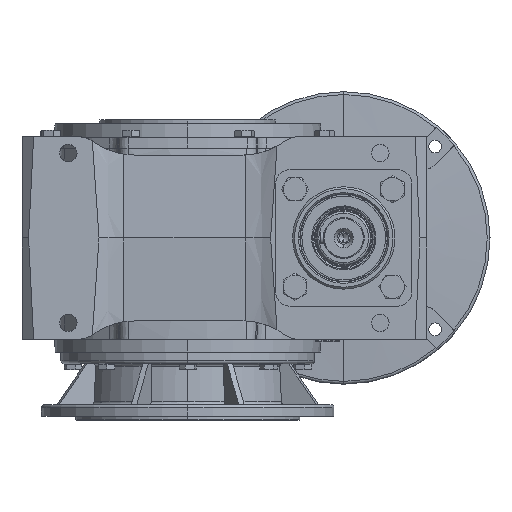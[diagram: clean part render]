
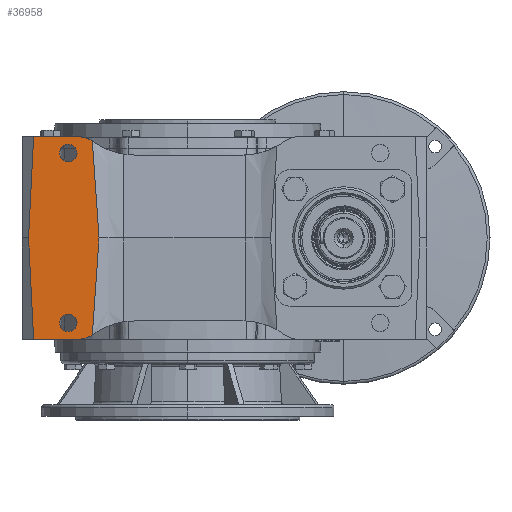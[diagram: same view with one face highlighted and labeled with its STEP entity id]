
A CAD part, left-side view. The second image highlights one B-rep face of the part: STEP entity #36958.
In plain terms, the highlighted planar face has unit normal (-1, 0, 0).
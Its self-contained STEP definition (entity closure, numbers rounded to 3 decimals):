
#3470 = CARTESIAN_POINT ( 'NONE',  ( -170., 113.851, -74. ) ) ;
#4552 = DIRECTION ( 'NONE',  ( 0., 0., 1. ) ) ;
#7129 = CARTESIAN_POINT ( 'NONE',  ( -170., 92.258, 16.555 ) ) ;
#7881 = CARTESIAN_POINT ( 'NONE',  ( -170., 95.711, 66.242 ) ) ;
#7960 = FACE_BOUND ( 'NONE', #58443, .T. ) ;
#8030 = VERTEX_POINT ( 'NONE', #23233 ) ;
#10443 = EDGE_CURVE ( 'NONE', #32246, #8030, #54587, .T. ) ;
#10709 = VECTOR ( 'NONE', #45465, 1000. ) ;
#10775 = DIRECTION ( 'NONE',  ( -1., 0., 0. ) ) ;
#10884 = ORIENTED_EDGE ( 'NONE', *, *, #18679, .T. ) ;
#12291 = ORIENTED_EDGE ( 'NONE', *, *, #26528, .F. ) ;
#12383 = DIRECTION ( 'NONE',  ( 0., 1., 0. ) ) ;
#16838 = ORIENTED_EDGE ( 'NONE', *, *, #47086, .F. ) ;
#16850 = CARTESIAN_POINT ( 'NONE',  ( -170., 97.852, 99.377 ) ) ;
#17717 = CARTESIAN_POINT ( 'NONE',  ( -170., 122.5, 96. ) ) ;
#18679 = EDGE_CURVE ( 'NONE', #29253, #93138, #91396, .T. ) ;
#19128 = CIRCLE ( 'NONE', #57499, 9. ) ;
#21636 = VERTEX_POINT ( 'NONE', #95622 ) ;
#22206 = DIRECTION ( 'NONE',  ( 0., -0.049, 0.999 ) ) ;
#23233 = CARTESIAN_POINT ( 'NONE',  ( -170., 122.5, 78. ) ) ;
#24098 = B_SPLINE_CURVE_WITH_KNOTS ( 'NONE', 3,
 ( #68970, #7129, #60841, #7881, #69749, #16850 ),
 .UNSPECIFIED., .F., .F.,
 ( 4, 2, 4 ),
 ( 0.098, 0.147, 0.197 ),
 .UNSPECIFIED. ) ;
#26034 = CARTESIAN_POINT ( 'NONE',  ( -170., 93.44, -33.115 ) ) ;
#26528 = EDGE_CURVE ( 'NONE', #8030, #32246, #114505, .T. ) ;
#27073 = CARTESIAN_POINT ( 'NONE',  ( -170., 158.098, 104. ) ) ;
#27307 = DIRECTION ( 'NONE',  ( 0., 1., 0. ) ) ;
#29253 = VERTEX_POINT ( 'NONE', #69434 ) ;
#32175 = CARTESIAN_POINT ( 'NONE',  ( -170., 113.851, 74. ) ) ;
#32246 = VERTEX_POINT ( 'NONE', #17717 ) ;
#34309 = FACE_BOUND ( 'NONE', #47707, .T. ) ;
#34918 = CARTESIAN_POINT ( 'NONE',  ( -170., 96.799, -82.808 ) ) ;
#36363 = VECTOR ( 'NONE', #22206, 1000. ) ;
#36958 = ADVANCED_FACE ( 'NONE', ( #7960, #34309, #49403 ), #44653, .F. ) ;
#38540 = VERTEX_POINT ( 'NONE', #72688 ) ;
#38980 = ORIENTED_EDGE ( 'NONE', *, *, #39487, .T. ) ;
#39487 = EDGE_CURVE ( 'NONE', #47561, #21636, #24098, .T. ) ;
#40995 = DIRECTION ( 'NONE',  ( 0., 1., 0. ) ) ;
#41732 = CARTESIAN_POINT ( 'NONE',  ( -170., 122.5, -78. ) ) ;
#42114 = ORIENTED_EDGE ( 'NONE', *, *, #45759, .F. ) ;
#43281 = EDGE_LOOP ( 'NONE', ( #38980, #107599, #16838, #51295, #100683, #52091, #10884, #42114 ) ) ;
#43364 = CARTESIAN_POINT ( 'NONE',  ( -170., 92.258, -16.555 ) ) ;
#44173 = DIRECTION ( 'NONE',  ( -1., 0., 0. ) ) ;
#44653 = PLANE ( 'NONE',  #100724 ) ;
#45465 = DIRECTION ( 'NONE',  ( 0., -1., 0. ) ) ;
#45696 = CARTESIAN_POINT ( 'NONE',  ( -170., 122.5, 87. ) ) ;
#45759 = EDGE_CURVE ( 'NONE', #47561, #93138, #91962, .T. ) ;
#47086 = EDGE_CURVE ( 'NONE', #86064, #38540, #81191, .T. ) ;
#47561 = VERTEX_POINT ( 'NONE', #106786 ) ;
#47707 = EDGE_LOOP ( 'NONE', ( #89801, #12291 ) ) ;
#49403 = FACE_OUTER_BOUND ( 'NONE', #43281, .T. ) ;
#51295 = ORIENTED_EDGE ( 'NONE', *, *, #99114, .F. ) ;
#52091 = ORIENTED_EDGE ( 'NONE', *, *, #83302, .F. ) ;
#52376 = ORIENTED_EDGE ( 'NONE', *, *, #80968, .F. ) ;
#54142 = CARTESIAN_POINT ( 'NONE',  ( -170., 97.852, -99.377 ) ) ;
#54554 = DIRECTION ( 'NONE',  ( 0., 0., 1. ) ) ;
#54587 = CIRCLE ( 'NONE', #103274, 9. ) ;
#57469 = DIRECTION ( 'NONE',  ( -1., 0., 0. ) ) ;
#57499 = AXIS2_PLACEMENT_3D ( 'NONE', #110463, #57469, #4552 ) ;
#58443 = EDGE_LOOP ( 'NONE', ( #88912, #52376 ) ) ;
#59546 = VECTOR ( 'NONE', #99122, 1000. ) ;
#59772 = VECTOR ( 'NONE', #80693, 1000. ) ;
#59809 = LINE ( 'NONE', #101338, #36363 ) ;
#59994 = VERTEX_POINT ( 'NONE', #41732 ) ;
#60320 = CIRCLE ( 'NONE', #91569, 30. ) ;
#60841 = CARTESIAN_POINT ( 'NONE',  ( -170., 93.44, 33.115 ) ) ;
#61320 = EDGE_CURVE ( 'NONE', #21636, #38540, #60320, .T. ) ;
#61655 = AXIS2_PLACEMENT_3D ( 'NONE', #63704, #10775, #72601 ) ;
#63537 = CARTESIAN_POINT ( 'NONE',  ( -170., 64.974, -104. ) ) ;
#63704 = CARTESIAN_POINT ( 'NONE',  ( -170., 122.5, 87. ) ) ;
#64344 = AXIS2_PLACEMENT_3D ( 'NONE', #97176, #44173, #106014 ) ;
#65324 = DIRECTION ( 'NONE',  ( -1., 0., 0. ) ) ;
#68970 = CARTESIAN_POINT ( 'NONE',  ( -170., 91.006, 0. ) ) ;
#69434 = CARTESIAN_POINT ( 'NONE',  ( -170., 113.851, -104. ) ) ;
#69749 = CARTESIAN_POINT ( 'NONE',  ( -170., 96.799, 82.809 ) ) ;
#70696 = EDGE_CURVE ( 'NONE', #59994, #85474, #19128, .T. ) ;
#71336 = CARTESIAN_POINT ( 'NONE',  ( -170., 170., 149. ) ) ;
#72601 = DIRECTION ( 'NONE',  ( 0., 0., 1. ) ) ;
#72688 = CARTESIAN_POINT ( 'NONE',  ( -170., 113.851, 104. ) ) ;
#74383 = VERTEX_POINT ( 'NONE', #75655 ) ;
#75655 = CARTESIAN_POINT ( 'NONE',  ( -170., 163.234, 0. ) ) ;
#78114 = CARTESIAN_POINT ( 'NONE',  ( -170., 122.5, -96. ) ) ;
#80173 = DIRECTION ( 'NONE',  ( 1., 0., 0. ) ) ;
#80693 = DIRECTION ( 'NONE',  ( 0., -0.049, -0.999 ) ) ;
#80968 = EDGE_CURVE ( 'NONE', #85474, #59994, #102804, .T. ) ;
#81191 = LINE ( 'NONE', #107293, #10709 ) ;
#81941 = EDGE_CURVE ( 'NONE', #74383, #101559, #86029, .T. ) ;
#83040 = LINE ( 'NONE', #63537, #59546 ) ;
#83302 = EDGE_CURVE ( 'NONE', #29253, #101559, #83040, .T. ) ;
#85474 = VERTEX_POINT ( 'NONE', #78114 ) ;
#86029 = LINE ( 'NONE', #89622, #59772 ) ;
#86064 = VERTEX_POINT ( 'NONE', #27073 ) ;
#87817 = CARTESIAN_POINT ( 'NONE',  ( -170., 95.711, -66.242 ) ) ;
#88912 = ORIENTED_EDGE ( 'NONE', *, *, #70696, .F. ) ;
#89622 = CARTESIAN_POINT ( 'NONE',  ( -170., 158.159, -102.763 ) ) ;
#89801 = ORIENTED_EDGE ( 'NONE', *, *, #10443, .F. ) ;
#90001 = AXIS2_PLACEMENT_3D ( 'NONE', #3470, #65324, #12383 ) ;
#91396 = CIRCLE ( 'NONE', #90001, 30. ) ;
#91569 = AXIS2_PLACEMENT_3D ( 'NONE', #32175, #93930, #40995 ) ;
#91962 = B_SPLINE_CURVE_WITH_KNOTS ( 'NONE', 3,
 ( #114052, #43364, #26034, #87817, #34918, #96707 ),
 .UNSPECIFIED., .F., .F.,
 ( 4, 2, 4 ),
 ( 0.135, 0.184, 0.234 ),
 .UNSPECIFIED. ) ;
#93138 = VERTEX_POINT ( 'NONE', #54142 ) ;
#93930 = DIRECTION ( 'NONE',  ( -1., 0., 0. ) ) ;
#95622 = CARTESIAN_POINT ( 'NONE',  ( -170., 97.852, 99.377 ) ) ;
#96707 = CARTESIAN_POINT ( 'NONE',  ( -170., 97.852, -99.377 ) ) ;
#97176 = CARTESIAN_POINT ( 'NONE',  ( -170., 122.5, -87. ) ) ;
#99114 = EDGE_CURVE ( 'NONE', #74383, #86064, #59809, .T. ) ;
#99122 = DIRECTION ( 'NONE',  ( 0., 1., 0. ) ) ;
#100683 = ORIENTED_EDGE ( 'NONE', *, *, #81941, .T. ) ;
#100724 = AXIS2_PLACEMENT_3D ( 'NONE', #71336, #80173, #27307 ) ;
#101338 = CARTESIAN_POINT ( 'NONE',  ( -170., 158.159, 102.763 ) ) ;
#101559 = VERTEX_POINT ( 'NONE', #113848 ) ;
#102804 = CIRCLE ( 'NONE', #64344, 9. ) ;
#103274 = AXIS2_PLACEMENT_3D ( 'NONE', #45696, #107515, #54554 ) ;
#106014 = DIRECTION ( 'NONE',  ( 0., 0., 1. ) ) ;
#106786 = CARTESIAN_POINT ( 'NONE',  ( -170., 91.006, 0. ) ) ;
#107293 = CARTESIAN_POINT ( 'NONE',  ( -170., 64.974, 104. ) ) ;
#107515 = DIRECTION ( 'NONE',  ( -1., 0., 0. ) ) ;
#107599 = ORIENTED_EDGE ( 'NONE', *, *, #61320, .T. ) ;
#110463 = CARTESIAN_POINT ( 'NONE',  ( -170., 122.5, -87. ) ) ;
#113848 = CARTESIAN_POINT ( 'NONE',  ( -170., 158.098, -104. ) ) ;
#114052 = CARTESIAN_POINT ( 'NONE',  ( -170., 91.006, 0. ) ) ;
#114505 = CIRCLE ( 'NONE', #61655, 9. ) ;
